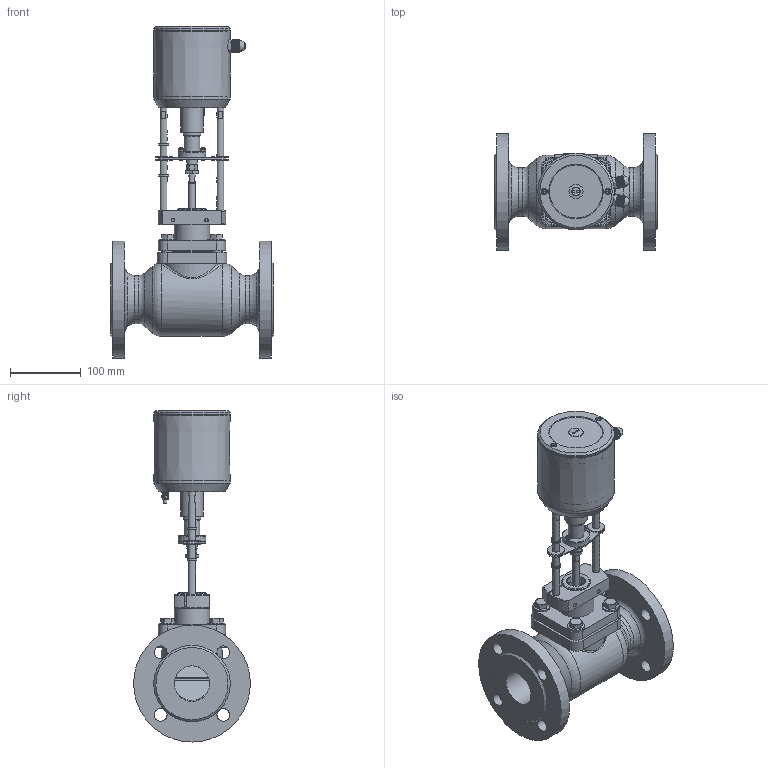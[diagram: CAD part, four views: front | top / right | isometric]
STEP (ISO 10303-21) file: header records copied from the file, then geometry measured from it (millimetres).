
FILE_DESCRIPTION(('STEP AP203'), '1');
FILE_NAME('ÊÏÑ-2 Äó 50 ñ ÝÏ-100-01', '', ('UNSPECIFIED'), ('UNSPECIFIED'), 'ASCON STEP Converter 1.3', 'ASCON Math Kernel', '');
FILE_SCHEMA(('CONFIG_CONTROL_DESIGN'));
Length unit declared in the file: millimetre
Bounding box: 230 x 165 x 468.92 mm (x, y, z)
Volume: 2011905.2 mm3; surface area: 488765 mm2
Topology: 20 solids, 24 shells, 2089 faces, 5463 edges, 3564 vertices
Faces by surface type: cylinder 989, plane 824, cone 181, bspline 46, torus 40, sphere 5, revolution 4
Full cylindrical faces by diameter (mm): 1.7 x2, 2 x2, 2.8 x2, 3.3 x2, 3.341 x3, 3.5 x4, 3.8 x2, 4 x6, 4.2 x2, 4.8 x2, 4.999 x6, 5 x14, 5.199 x3, 5.3 x3, 5.4 x3, 5.999 x3, 6 x6, 6.2 x2, 6.647 x2, 6.793 x2, 7 x4, 7.5 x1, 8 x3, 8.2 x2, 8.4 x2, 8.5 x2, 9.2 x4, 9.5 x1, 9.6 x2, 9.981 x1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
Entity records: 102356 total; most frequent: CARTESIAN_POINT 35381, DIRECTION 10382, ORIENTED_EDGE 10066, EDGE_CURVE 5033, AXIS2_PLACEMENT_3D 4126, VERTEX_POINT 3556, EDGE_LOOP 2753, LINE 2126
